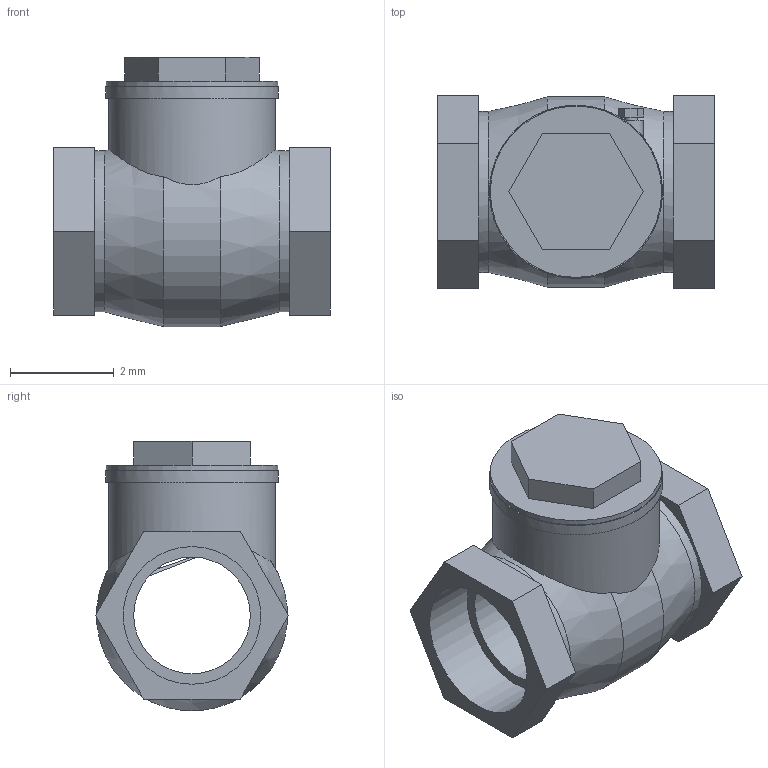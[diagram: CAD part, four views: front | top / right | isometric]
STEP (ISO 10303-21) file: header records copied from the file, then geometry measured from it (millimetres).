
FILE_DESCRIPTION(('Open CASCADE Model'),'2;1');
FILE_NAME('Open CASCADE Shape Model','2022-03-22T08:19:27',('Author'),( 'Open CASCADE'),'Open CASCADE STEP processor 7.3','Open CASCADE 7.3' ,'Unknown');
FILE_SCHEMA(('AUTOMOTIVE_DESIGN { 1 0 10303 214 1 1 1 1 }'));
Length unit declared in the file: millimetre
Products named in the file (1): Open CASCADE STEP translator 7.3 1
Bounding box: 5.32 x 3.72 x 5.18 mm (x, y, z)
Volume: 37.9 mm3; surface area: 166.1 mm2
Topology: 1 solids, 3 shells, 58 faces, 144 edges, 96 vertices
Faces by surface type: plane 39, cylinder 15, cone 4
Full cylindrical faces by diameter (mm): 0.245 x1, 2.245 x1, 2.65 x2, 3.1 x4, 3.21 x1, 3.3 x1, 3.33 x1
Entity records: 5559 total; most frequent: CARTESIAN_POINT 2692, DIRECTION 511, LINE 313, VECTOR 313, ORIENTED_EDGE 288, PCURVE 288, DEFINITIONAL_REPRESENTATION 288, EDGE_CURVE 144
